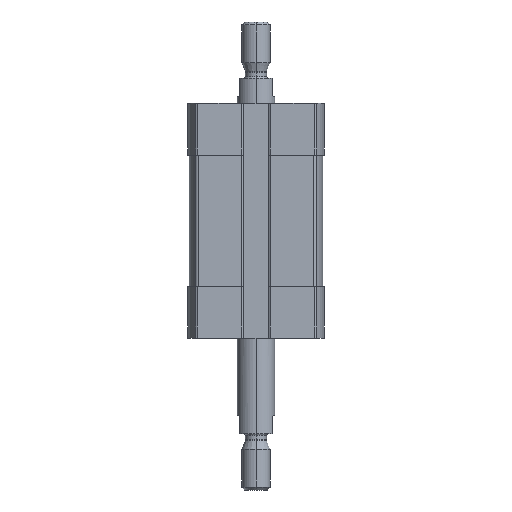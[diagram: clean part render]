
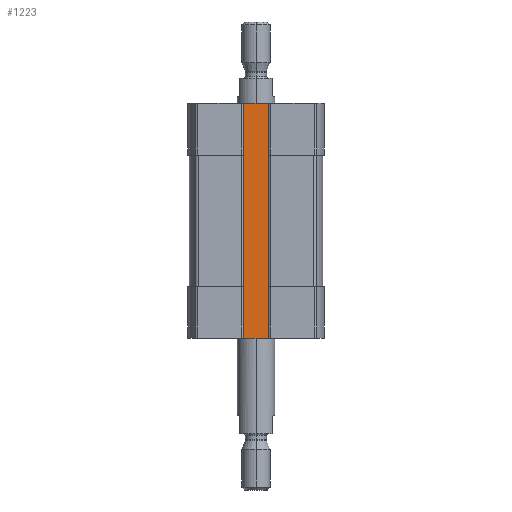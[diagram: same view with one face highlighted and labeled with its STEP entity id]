
A CAD part, left-side view. The second image highlights one B-rep face of the part: STEP entity #1223.
In plain terms, the highlighted planar face has unit normal (-1, 0, 0).
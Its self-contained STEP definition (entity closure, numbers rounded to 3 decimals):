
#54 = AXIS2_PLACEMENT_3D ( 'NONE', #11550, #5948, #5050 ) ;
#297 = ORIENTED_EDGE ( 'NONE', *, *, #5800, .T. ) ;
#926 = EDGE_CURVE ( 'NONE', #2928, #2110, #7233, .T. ) ;
#1223 = ADVANCED_FACE ( 'NONE', ( #8747 ), #9588, .T. ) ;
#2110 = VERTEX_POINT ( 'NONE', #6264 ) ;
#2248 = VECTOR ( 'NONE', #10430, 1000. ) ;
#2613 = CARTESIAN_POINT ( 'NONE',  ( -9.3, 3., 0. ) ) ;
#2730 = LINE ( 'NONE', #7206, #6479 ) ;
#2928 = VERTEX_POINT ( 'NONE', #10654 ) ;
#3027 = VECTOR ( 'NONE', #6491, 1000. ) ;
#4351 = EDGE_LOOP ( 'NONE', ( #7361, #8046, #297, #7078 ) ) ;
#4455 = EDGE_CURVE ( 'NONE', #2110, #4511, #4639, .T. ) ;
#4511 = VERTEX_POINT ( 'NONE', #7268 ) ;
#4639 = LINE ( 'NONE', #2613, #3027 ) ;
#5050 = DIRECTION ( 'NONE',  ( 0., 0., 1. ) ) ;
#5800 = EDGE_CURVE ( 'NONE', #2928, #7862, #9471, .T. ) ;
#5888 = CARTESIAN_POINT ( 'NONE',  ( -9.3, 3., -50. ) ) ;
#5948 = DIRECTION ( 'NONE',  ( -1., 0., 0. ) ) ;
#6264 = CARTESIAN_POINT ( 'NONE',  ( -9.3, 3., 0. ) ) ;
#6334 = CARTESIAN_POINT ( 'NONE',  ( -9.3, 3., -50. ) ) ;
#6335 = VECTOR ( 'NONE', #7115, 1000. ) ;
#6479 = VECTOR ( 'NONE', #9108, 1000. ) ;
#6491 = DIRECTION ( 'NONE',  ( 0., -1., 0. ) ) ;
#7078 = ORIENTED_EDGE ( 'NONE', *, *, #7141, .T. ) ;
#7115 = DIRECTION ( 'NONE',  ( 0., 0., 1. ) ) ;
#7141 = EDGE_CURVE ( 'NONE', #7862, #4511, #2730, .T. ) ;
#7206 = CARTESIAN_POINT ( 'NONE',  ( -9.3, -3., -50. ) ) ;
#7233 = LINE ( 'NONE', #6334, #6335 ) ;
#7268 = CARTESIAN_POINT ( 'NONE',  ( -9.3, -3., 0. ) ) ;
#7361 = ORIENTED_EDGE ( 'NONE', *, *, #4455, .F. ) ;
#7862 = VERTEX_POINT ( 'NONE', #11422 ) ;
#8046 = ORIENTED_EDGE ( 'NONE', *, *, #926, .F. ) ;
#8747 = FACE_OUTER_BOUND ( 'NONE', #4351, .T. ) ;
#9108 = DIRECTION ( 'NONE',  ( 0., 0., 1. ) ) ;
#9471 = LINE ( 'NONE', #5888, #2248 ) ;
#9588 = PLANE ( 'NONE',  #54 ) ;
#10430 = DIRECTION ( 'NONE',  ( 0., -1., 0. ) ) ;
#10654 = CARTESIAN_POINT ( 'NONE',  ( -9.3, 3., -50. ) ) ;
#11422 = CARTESIAN_POINT ( 'NONE',  ( -9.3, -3., -50. ) ) ;
#11550 = CARTESIAN_POINT ( 'NONE',  ( -9.3, 3., -50. ) ) ;
